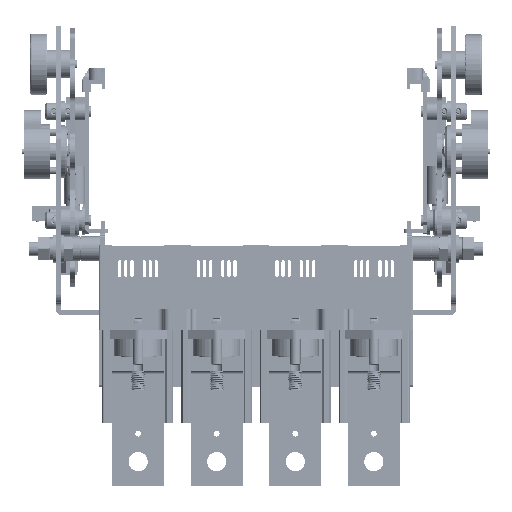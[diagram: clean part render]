
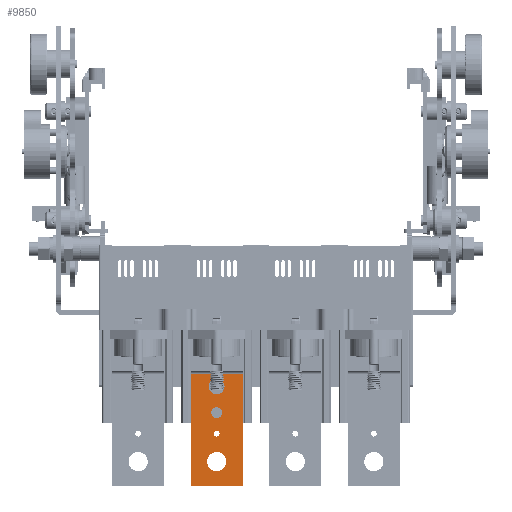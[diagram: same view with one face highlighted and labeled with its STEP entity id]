
A CAD part, front view. The second image highlights one B-rep face of the part: STEP entity #9850.
In plain terms, the highlighted planar face has unit normal (0, -1, 0) as drawn and (0, 0, 1) by its records, which use the part's own axes.
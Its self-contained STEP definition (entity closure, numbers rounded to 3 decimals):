
#4220 = CIRCLE ( 'NONE', #314703, 1.65 ) ;
#6163 = ORIENTED_EDGE ( 'NONE', *, *, #323730, .F. ) ;
#6596 = VERTEX_POINT ( 'NONE', #56332 ) ;
#7499 = VECTOR ( 'NONE', #246434, 1000. ) ;
#8507 = EDGE_CURVE ( 'NONE', #56421, #192766, #272918, .T. ) ;
#9466 = CIRCLE ( 'NONE', #212760, 5.5 ) ;
#9676 = EDGE_CURVE ( 'NONE', #86568, #234017, #227379, .T. ) ;
#9850 = ADVANCED_FACE ( 'NONE', ( #170826, #41731, #255610, #340319, #346806 ), #186057, .F. ) ;
#10192 = CARTESIAN_POINT ( 'NONE',  ( -54.63, -25.722, 290.932 ) ) ;
#19944 = AXIS2_PLACEMENT_3D ( 'NONE', #69973, #287317, #259086 ) ;
#22492 = DIRECTION ( 'NONE',  ( 0., -1., 0. ) ) ;
#30830 = CARTESIAN_POINT ( 'NONE',  ( -39.63, -87.222, 290.932 ) ) ;
#41731 = FACE_BOUND ( 'NONE', #58525, .T. ) ;
#42242 = AXIS2_PLACEMENT_3D ( 'NONE', #349781, #102504, #77762 ) ;
#46837 = EDGE_LOOP ( 'NONE', ( #166106, #308590, #259143, #187585 ) ) ;
#46951 = VERTEX_POINT ( 'NONE', #65907 ) ;
#51464 = AXIS2_PLACEMENT_3D ( 'NONE', #211555, #183299, #22492 ) ;
#52221 = CARTESIAN_POINT ( 'NONE',  ( -54.63, -57.222, 290.932 ) ) ;
#56332 = CARTESIAN_POINT ( 'NONE',  ( -54.63, -42.122, 290.932 ) ) ;
#56421 = VERTEX_POINT ( 'NONE', #60995 ) ;
#56792 = LINE ( 'NONE', #196353, #269041 ) ;
#58525 = EDGE_LOOP ( 'NONE', ( #6163, #209396 ) ) ;
#59874 = EDGE_CURVE ( 'NONE', #6596, #46951, #61483, .T. ) ;
#60995 = CARTESIAN_POINT ( 'NONE',  ( -39.63, -23.222, 290.932 ) ) ;
#61483 = CIRCLE ( 'NONE', #230823, 3.1 ) ;
#61798 = EDGE_CURVE ( 'NONE', #152585, #276038, #276584, .T. ) ;
#63306 = LINE ( 'NONE', #142866, #331046 ) ;
#65907 = CARTESIAN_POINT ( 'NONE',  ( -54.63, -48.322, 290.932 ) ) ;
#69973 = CARTESIAN_POINT ( 'NONE',  ( -39.63, -87.222, 290.932 ) ) ;
#72531 = DIRECTION ( 'NONE',  ( 0., 0., 1. ) ) ;
#77762 = DIRECTION ( 'NONE',  ( 0., -1., 0. ) ) ;
#81906 = VERTEX_POINT ( 'NONE', #287997 ) ;
#86568 = VERTEX_POINT ( 'NONE', #255462 ) ;
#87572 = CARTESIAN_POINT ( 'NONE',  ( -54.63, -58.872, 290.932 ) ) ;
#89088 = DIRECTION ( 'NONE',  ( 0., -1., 0. ) ) ;
#92064 = EDGE_CURVE ( 'NONE', #192766, #234017, #63306, .T. ) ;
#93164 = ORIENTED_EDGE ( 'NONE', *, *, #188069, .F. ) ;
#94191 = VERTEX_POINT ( 'NONE', #147863 ) ;
#95727 = ORIENTED_EDGE ( 'NONE', *, *, #347130, .F. ) ;
#96864 = EDGE_LOOP ( 'NONE', ( #93164, #135197 ) ) ;
#101618 = CARTESIAN_POINT ( 'NONE',  ( -54.63, -55.572, 290.932 ) ) ;
#102504 = DIRECTION ( 'NONE',  ( 0., 0., 1. ) ) ;
#105230 = DIRECTION ( 'NONE',  ( 0., -1., 0. ) ) ;
#115873 = VERTEX_POINT ( 'NONE', #101618 ) ;
#119533 = CARTESIAN_POINT ( 'NONE',  ( -69.63, -87.222, 290.932 ) ) ;
#128619 = CARTESIAN_POINT ( 'NONE',  ( -54.63, -73.222, 290.932 ) ) ;
#135197 = ORIENTED_EDGE ( 'NONE', *, *, #174812, .F. ) ;
#136080 = DIRECTION ( 'NONE',  ( 0., 0., 1. ) ) ;
#140324 = DIRECTION ( 'NONE',  ( 0., 0., 1. ) ) ;
#141203 = CARTESIAN_POINT ( 'NONE',  ( -54.63, -57.222, 290.932 ) ) ;
#142866 = CARTESIAN_POINT ( 'NONE',  ( -39.63, -87.222, 290.932 ) ) ;
#147863 = CARTESIAN_POINT ( 'NONE',  ( -54.63, -67.722, 290.932 ) ) ;
#152585 = VERTEX_POINT ( 'NONE', #239316 ) ;
#163361 = CARTESIAN_POINT ( 'NONE',  ( -54.63, -73.222, 290.932 ) ) ;
#166106 = ORIENTED_EDGE ( 'NONE', *, *, #8507, .F. ) ;
#166330 = CIRCLE ( 'NONE', #42242, 4.5 ) ;
#170826 = FACE_BOUND ( 'NONE', #262904, .T. ) ;
#174305 = DIRECTION ( 'NONE',  ( 0., -1., 0. ) ) ;
#174812 = EDGE_CURVE ( 'NONE', #115873, #270275, #251131, .T. ) ;
#183299 = DIRECTION ( 'NONE',  ( 0., 0., 1. ) ) ;
#186057 = PLANE ( 'NONE',  #19944 ) ;
#186889 = DIRECTION ( 'NONE',  ( 0., 0., 1. ) ) ;
#187585 = ORIENTED_EDGE ( 'NONE', *, *, #92064, .F. ) ;
#188069 = EDGE_CURVE ( 'NONE', #270275, #115873, #4220, .T. ) ;
#189076 = DIRECTION ( 'NONE',  ( 0., -1., 0. ) ) ;
#189157 = CARTESIAN_POINT ( 'NONE',  ( -54.63, -45.222, 290.932 ) ) ;
#192766 = VERTEX_POINT ( 'NONE', #207389 ) ;
#192861 = DIRECTION ( 'NONE',  ( -1., 0., 0. ) ) ;
#196353 = CARTESIAN_POINT ( 'NONE',  ( -69.63, -23.222, 290.932 ) ) ;
#197708 = ORIENTED_EDGE ( 'NONE', *, *, #61798, .F. ) ;
#207389 = CARTESIAN_POINT ( 'NONE',  ( -39.63, -87.222, 290.932 ) ) ;
#209396 = ORIENTED_EDGE ( 'NONE', *, *, #59874, .F. ) ;
#211555 = CARTESIAN_POINT ( 'NONE',  ( -54.63, -45.222, 290.932 ) ) ;
#211747 = AXIS2_PLACEMENT_3D ( 'NONE', #141203, #249055, #189076 ) ;
#212760 = AXIS2_PLACEMENT_3D ( 'NONE', #163361, #140324, #216409 ) ;
#214251 = ORIENTED_EDGE ( 'NONE', *, *, #337818, .F. ) ;
#216409 = DIRECTION ( 'NONE',  ( 0., -1., 0. ) ) ;
#222941 = CIRCLE ( 'NONE', #256748, 5.5 ) ;
#227379 = LINE ( 'NONE', #119533, #301952 ) ;
#230823 = AXIS2_PLACEMENT_3D ( 'NONE', #189157, #136080, #298649 ) ;
#234017 = VERTEX_POINT ( 'NONE', #270249 ) ;
#239316 = CARTESIAN_POINT ( 'NONE',  ( -54.63, -34.722, 290.932 ) ) ;
#246434 = DIRECTION ( 'NONE',  ( 0., -1., 0. ) ) ;
#249055 = DIRECTION ( 'NONE',  ( 0., 0., 1. ) ) ;
#251131 = CIRCLE ( 'NONE', #211747, 1.65 ) ;
#255462 = CARTESIAN_POINT ( 'NONE',  ( -69.63, -23.222, 290.932 ) ) ;
#255610 = FACE_BOUND ( 'NONE', #278575, .T. ) ;
#256748 = AXIS2_PLACEMENT_3D ( 'NONE', #128619, #186889, #89088 ) ;
#257542 = EDGE_CURVE ( 'NONE', #56421, #86568, #56792, .T. ) ;
#259086 = DIRECTION ( 'NONE',  ( 0., 1., 0. ) ) ;
#259143 = ORIENTED_EDGE ( 'NONE', *, *, #9676, .T. ) ;
#262904 = EDGE_LOOP ( 'NONE', ( #95727, #214251 ) ) ;
#269041 = VECTOR ( 'NONE', #192861, 1000. ) ;
#270249 = CARTESIAN_POINT ( 'NONE',  ( -69.63, -87.222, 290.932 ) ) ;
#270275 = VERTEX_POINT ( 'NONE', #87572 ) ;
#272918 = LINE ( 'NONE', #30830, #7499 ) ;
#273106 = ORIENTED_EDGE ( 'NONE', *, *, #344752, .F. ) ;
#276038 = VERTEX_POINT ( 'NONE', #10192 ) ;
#276584 = CIRCLE ( 'NONE', #316129, 4.5 ) ;
#278575 = EDGE_LOOP ( 'NONE', ( #197708, #273106 ) ) ;
#287317 = DIRECTION ( 'NONE',  ( 0., 0., -1. ) ) ;
#287997 = CARTESIAN_POINT ( 'NONE',  ( -54.63, -78.722, 290.932 ) ) ;
#298649 = DIRECTION ( 'NONE',  ( 0., -1., 0. ) ) ;
#301952 = VECTOR ( 'NONE', #174305, 1000. ) ;
#308590 = ORIENTED_EDGE ( 'NONE', *, *, #257542, .T. ) ;
#309403 = DIRECTION ( 'NONE',  ( 0., -1., 0. ) ) ;
#314703 = AXIS2_PLACEMENT_3D ( 'NONE', #52221, #347290, #105230 ) ;
#316129 = AXIS2_PLACEMENT_3D ( 'NONE', #341124, #72531, #309403 ) ;
#316549 = CIRCLE ( 'NONE', #51464, 3.1 ) ;
#323730 = EDGE_CURVE ( 'NONE', #46951, #6596, #316549, .T. ) ;
#328416 = DIRECTION ( 'NONE',  ( -1., 0., 0. ) ) ;
#331046 = VECTOR ( 'NONE', #328416, 1000. ) ;
#337818 = EDGE_CURVE ( 'NONE', #94191, #81906, #222941, .T. ) ;
#340319 = FACE_BOUND ( 'NONE', #96864, .T. ) ;
#341124 = CARTESIAN_POINT ( 'NONE',  ( -54.63, -30.222, 290.932 ) ) ;
#344752 = EDGE_CURVE ( 'NONE', #276038, #152585, #166330, .T. ) ;
#346806 = FACE_OUTER_BOUND ( 'NONE', #46837, .T. ) ;
#347130 = EDGE_CURVE ( 'NONE', #81906, #94191, #9466, .T. ) ;
#347290 = DIRECTION ( 'NONE',  ( 0., 0., 1. ) ) ;
#349781 = CARTESIAN_POINT ( 'NONE',  ( -54.63, -30.222, 290.932 ) ) ;
